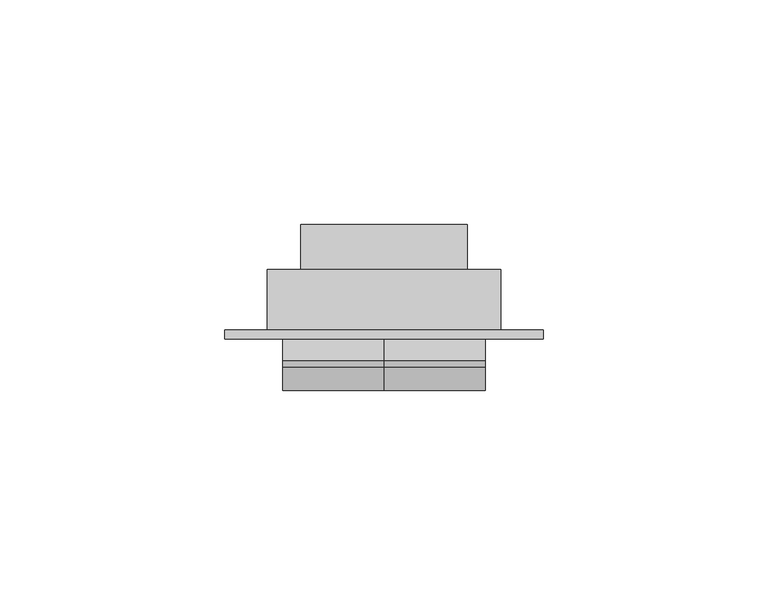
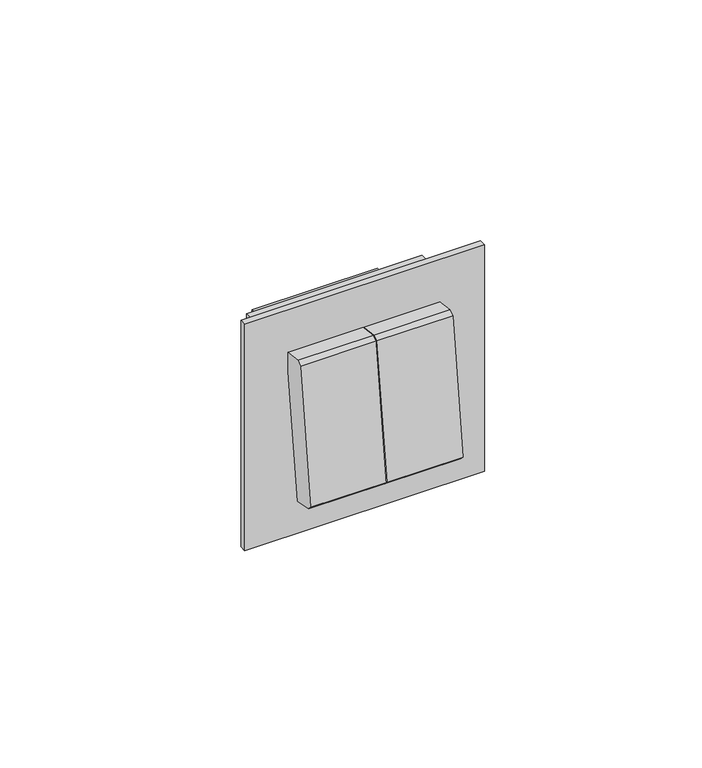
"""IFC4 building model written with IfcOpenShell, lengths in millimetres: proxy geometry."""

from ifc_helpers import new_model, si_unit, frame, origin, place, context, project, spatial, polyline, outline, extrude, faceted_brep, source, transform, mapped, element, save


def electrical_fixtures_21377ced(model_context):
    return source(origin(), model_context, "Body", "SolidModel", [
        extrude(outline(polyline([(-46.907742, -20.7286385), (-48.1, -19.5363805), (-42.9449262, 21.5328885), (-41.5637479, 22.5), (-35.7515369, 21.7704429), (-41.2121425, -21.7329264), (-46.907742, -20.7286385)])), frame((0.0, 0.0, 0.0), z_axis=(1.0, 0.0, 0.0), x_axis=(0.0, 1.0, 0.0)), (0.0, 0.0, 1.0), 22.5),
        extrude(outline(polyline([(-46.907742, -20.7286385), (-48.1, -19.5363805), (-42.9449262, 21.5328885), (-41.5637479, 22.5), (-35.7515369, 21.7704429), (-41.2121425, -21.7329264), (-46.907742, -20.7286385)])), frame((-22.5, 0.0, 0.0), z_axis=(1.0, 0.0, 0.0), x_axis=(0.0, 1.0, 0.0)), (0.0, 0.0, 1.0), 22.5),
        faceted_brep([(35.45, -34.7, -35.45), (-35.45, -34.7, -35.45), (-35.45, -34.7, 35.45), (35.45, -34.7, 35.45), (-26.0, -34.7, -26.0), (26.0, -34.7, -26.0), (26.0, -34.7, 26.0), (-26.0, -34.7, 26.0), (35.45, -36.7, -35.45), (35.45, -36.7, 35.45), (-35.45, -36.7, 35.45), (-35.45, -36.7, -35.45), (26.0, -21.2, -26.0), (-26.0, -21.2, -26.0), (-26.0, -21.2, 26.0), (26.0, -21.2, 26.0), (-18.5, -21.2, -18.5), (18.5, -21.2, -18.5), (18.5, -21.2, 18.5), (-18.5, -21.2, 18.5), (18.5, -11.2, -18.5), (-18.5, -11.2, -18.5), (-18.5, -11.2, 18.5), (18.5, -11.2, 18.5)], [[[0, 1, 2, 3], [4, 5, 6, 7]], [[8, 9, 10, 11]], [[1, 0, 8, 11]], [[2, 1, 11, 10]], [[3, 2, 10, 9]], [[0, 3, 9, 8]], [[12, 13, 14, 15], [16, 17, 18, 19]], [[13, 12, 5, 4]], [[14, 13, 4, 7]], [[15, 14, 7, 6]], [[12, 15, 6, 5]], [[20, 21, 22, 23]], [[21, 20, 17, 16]], [[22, 21, 16, 19]], [[23, 22, 19, 18]], [[20, 23, 18, 17]]]),
    ])


if __name__ == "__main__":
    model = new_model("IFC4")
    model_context = context("Model", 3, world=origin())
    ifc_project = project(units=[si_unit("LENGTHUNIT", "METRE", prefix="MILLI")], contexts=[model_context])
    site = spatial("IfcSite", under=ifc_project)
    building = spatial("IfcBuilding", under=site)
    placement = place(None, origin())
    electrical_fixtures_shape = electrical_fixtures_21377ced(model_context)
    element("IfcBuildingElementProxy", 1, Name="Electrical Fixtures", at=placement, inside=building, context=model_context, shape_type="MappedRepresentation", body=[
        mapped(electrical_fixtures_shape, transform((0.0, 0.0, 0.0), x_axis=(1.0, 0.0, 0.0), y_axis=(0.0, 1.0, 0.0), z_axis=(0.0, 0.0, 1.0))),
    ])
    save(model, "model.ifc")
